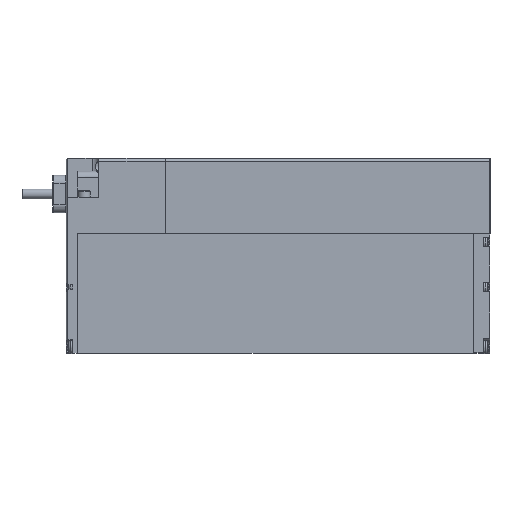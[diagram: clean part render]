
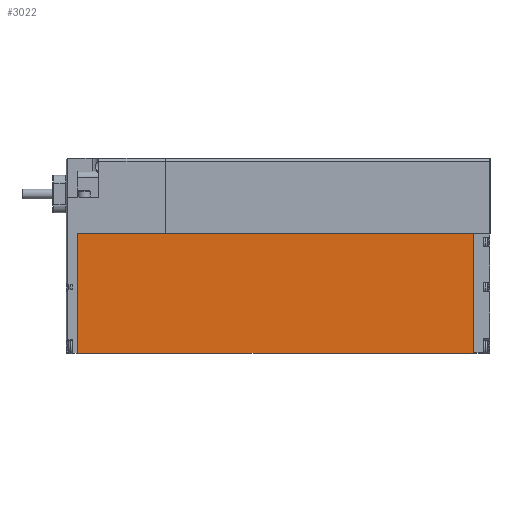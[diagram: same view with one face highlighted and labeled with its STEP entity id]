
A CAD part, left-side view. The second image highlights one B-rep face of the part: STEP entity #3022.
In plain terms, the highlighted planar face has unit normal (-1, 0, 0).
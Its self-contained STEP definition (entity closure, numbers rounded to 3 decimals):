
#2180=CARTESIAN_POINT('',(0.,36.8,0.0));
#2181=VERTEX_POINT('',#2180);
#2188=CARTESIAN_POINT('',(0.0,0.,0.0));
#2189=VERTEX_POINT('',#2188);
#2190=CARTESIAN_POINT('',(0.,36.8,0.0));
#2191=DIRECTION('',(0.0,-1.0,0.0));
#2192=VECTOR('',#2191,36.8);
#2193=LINE('',#2190,#2192);
#2194=EDGE_CURVE('',#2181,#2189,#2193,.T.);
#2502=CARTESIAN_POINT('',(0.,0.,-101.5));
#2503=VERTEX_POINT('',#2502);
#2510=CARTESIAN_POINT('',(0.0,0.,-121.5));
#2511=VERTEX_POINT('',#2510);
#2512=CARTESIAN_POINT('',(0.,0.,-101.5));
#2513=DIRECTION('',(0.0,0.0,-1.0));
#2514=VECTOR('',#2513,20.0);
#2515=LINE('',#2512,#2514);
#2516=EDGE_CURVE('',#2503,#2511,#2515,.T.);
#2932=CARTESIAN_POINT('',(0.,36.8,-121.5));
#2933=VERTEX_POINT('',#2932);
#2934=CARTESIAN_POINT('',(0.,36.8,-121.5));
#2935=DIRECTION('',(0.0,-1.0,0.0));
#2936=VECTOR('',#2935,36.8);
#2937=LINE('',#2934,#2936);
#2938=EDGE_CURVE('',#2933,#2511,#2937,.T.);
#2976=CARTESIAN_POINT('',(0.,36.8,0.0));
#2977=DIRECTION('',(-1.0,0.0,0.0));
#2978=DIRECTION('',(0.0,0.0,1.0));
#2979=AXIS2_PLACEMENT_3D('',#2976,#2977,#2978);
#2980=PLANE('',#2979);
#2981=ORIENTED_EDGE('',*,*,#2938,.T.);
#2982=ORIENTED_EDGE('',*,*,#2516,.F.);
#2983=CARTESIAN_POINT('',(0.,0.2,-101.5));
#2984=VERTEX_POINT('',#2983);
#2985=CARTESIAN_POINT('',(0.,0.,-101.5));
#2986=DIRECTION('',(0.0,1.0,0.0));
#2987=VECTOR('',#2986,0.2);
#2988=LINE('',#2985,#2987);
#2989=EDGE_CURVE('',#2503,#2984,#2988,.T.);
#2990=ORIENTED_EDGE('',*,*,#2989,.T.);
#2991=CARTESIAN_POINT('',(0.,0.2,-20.0));
#2992=VERTEX_POINT('',#2991);
#2993=CARTESIAN_POINT('',(0.,0.2,-101.5));
#2994=DIRECTION('',(0.0,0.0,1.0));
#2995=VECTOR('',#2994,81.5);
#2996=LINE('',#2993,#2995);
#2997=EDGE_CURVE('',#2984,#2992,#2996,.T.);
#2998=ORIENTED_EDGE('',*,*,#2997,.T.);
#2999=CARTESIAN_POINT('',(0.,0.,-20.0));
#3000=VERTEX_POINT('',#2999);
#3001=CARTESIAN_POINT('',(0.,0.2,-20.0));
#3002=DIRECTION('',(0.0,-1.0,0.0));
#3003=VECTOR('',#3002,0.2);
#3004=LINE('',#3001,#3003);
#3005=EDGE_CURVE('',#2992,#3000,#3004,.T.);
#3006=ORIENTED_EDGE('',*,*,#3005,.T.);
#3007=CARTESIAN_POINT('',(0.0,0.,0.0));
#3008=DIRECTION('',(0.0,0.0,-1.0));
#3009=VECTOR('',#3008,20.0);
#3010=LINE('',#3007,#3009);
#3011=EDGE_CURVE('',#2189,#3000,#3010,.T.);
#3012=ORIENTED_EDGE('',*,*,#3011,.F.);
#3013=ORIENTED_EDGE('',*,*,#2194,.F.);
#3014=CARTESIAN_POINT('',(0.,36.8,-121.5));
#3015=DIRECTION('',(0.0,0.0,1.0));
#3016=VECTOR('',#3015,121.5);
#3017=LINE('',#3014,#3016);
#3018=EDGE_CURVE('',#2933,#2181,#3017,.T.);
#3019=ORIENTED_EDGE('',*,*,#3018,.F.);
#3020=EDGE_LOOP('',(#2981,#2982,#2990,#2998,#3006,#3012,#3013,#3019));
#3021=FACE_OUTER_BOUND('',#3020,.T.);
#3022=ADVANCED_FACE('',(#3021),#2980,.T.);
